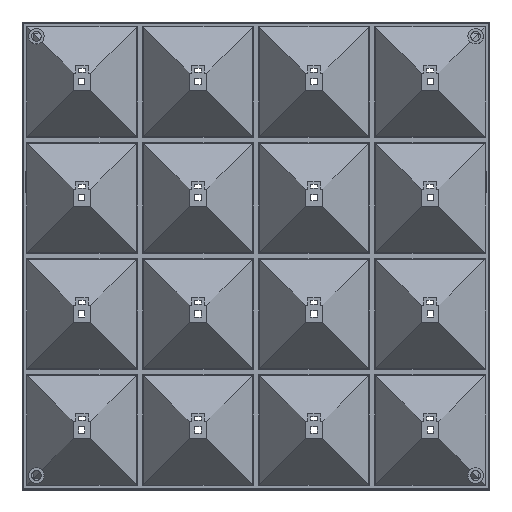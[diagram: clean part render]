
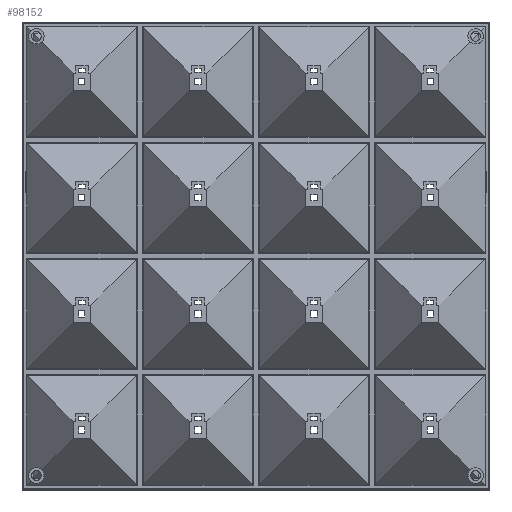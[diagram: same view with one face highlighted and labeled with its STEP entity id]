
A CAD part, top view. The second image highlights one B-rep face of the part: STEP entity #98152.
In plain terms, the highlighted planar face has unit normal (0, 0, 1).
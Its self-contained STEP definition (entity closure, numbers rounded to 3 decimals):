
#42 = VERTEX_POINT('',#43);
#43 = CARTESIAN_POINT('',(-100.8,-188.95,-24.5));
#50 = PLANE('',#51);
#51 = AXIS2_PLACEMENT_3D('',#52,#53,#54);
#52 = CARTESIAN_POINT('',(-100.8,-188.95,-25.9));
#53 = DIRECTION('',(1.,0.,0.));
#54 = DIRECTION('',(0.,0.,1.));
#62 = PLANE('',#63);
#63 = AXIS2_PLACEMENT_3D('',#64,#65,#66);
#64 = CARTESIAN_POINT('',(-100.8,-188.95,-25.9));
#65 = DIRECTION('',(0.,1.,0.));
#66 = DIRECTION('',(0.,-0.,1.));
#103 = VERTEX_POINT('',#104);
#104 = CARTESIAN_POINT('',(-100.8,12.65,-24.5));
#118 = PLANE('',#119);
#119 = AXIS2_PLACEMENT_3D('',#120,#121,#122);
#120 = CARTESIAN_POINT('',(-100.8,12.65,-25.9));
#121 = DIRECTION('',(0.,1.,0.));
#122 = DIRECTION('',(0.,-0.,1.));
#130 = EDGE_CURVE('',#42,#103,#131,.T.);
#131 = SURFACE_CURVE('',#132,(#136,#143),.PCURVE_S1.);
#132 = LINE('',#133,#134);
#133 = CARTESIAN_POINT('',(-100.8,-188.95,-24.5));
#134 = VECTOR('',#135,1.);
#135 = DIRECTION('',(0.,1.,0.));
#136 = PCURVE('',#50,#137);
#137 = DEFINITIONAL_REPRESENTATION('',(#138),#142);
#138 = LINE('',#139,#140);
#139 = CARTESIAN_POINT('',(1.4,0.));
#140 = VECTOR('',#141,1.);
#141 = DIRECTION('',(0.,-1.));
#142 = ( GEOMETRIC_REPRESENTATION_CONTEXT(2) 
PARAMETRIC_REPRESENTATION_CONTEXT() REPRESENTATION_CONTEXT('2D SPACE',''
  ) );
#143 = PCURVE('',#144,#149);
#144 = PLANE('',#145);
#145 = AXIS2_PLACEMENT_3D('',#146,#147,#148);
#146 = CARTESIAN_POINT('',(-100.8,-188.95,-24.5));
#147 = DIRECTION('',(0.,0.,1.));
#148 = DIRECTION('',(1.,0.,-0.));
#149 = DEFINITIONAL_REPRESENTATION('',(#150),#154);
#150 = LINE('',#151,#152);
#151 = CARTESIAN_POINT('',(0.,0.));
#152 = VECTOR('',#153,1.);
#153 = DIRECTION('',(0.,1.));
#154 = ( GEOMETRIC_REPRESENTATION_CONTEXT(2) 
PARAMETRIC_REPRESENTATION_CONTEXT() REPRESENTATION_CONTEXT('2D SPACE',''
  ) );
#199 = PLANE('',#200);
#200 = AXIS2_PLACEMENT_3D('',#201,#202,#203);
#201 = CARTESIAN_POINT('',(100.8,-188.95,-25.9));
#202 = DIRECTION('',(1.,0.,0.));
#203 = DIRECTION('',(0.,0.,1.));
#36729 = PLANE('',#36730);
#36730 = AXIS2_PLACEMENT_3D('',#36731,#36732,#36733);
#36731 = CARTESIAN_POINT('',(-100.,-188.15,-24.5));
#36732 = DIRECTION('',(1.,0.,0.));
#36733 = DIRECTION('',(0.,0.,1.));
#36757 = PLANE('',#36758);
#36758 = AXIS2_PLACEMENT_3D('',#36759,#36760,#36761);
#36759 = CARTESIAN_POINT('',(-100.,-188.15,-24.5));
#36760 = DIRECTION('',(0.,1.,0.));
#36761 = DIRECTION('',(0.,-0.,1.));
#36785 = PLANE('',#36786);
#36786 = AXIS2_PLACEMENT_3D('',#36787,#36788,#36789);
#36787 = CARTESIAN_POINT('',(100.,-188.15,-24.5));
#36788 = DIRECTION('',(1.,0.,0.));
#36789 = DIRECTION('',(0.,0.,1.));
#36920 = PLANE('',#36921);
#36921 = AXIS2_PLACEMENT_3D('',#36922,#36923,#36924);
#36922 = CARTESIAN_POINT('',(-100.,11.85,-24.5));
#36923 = DIRECTION('',(0.,1.,0.));
#36924 = DIRECTION('',(0.,-0.,1.));
#77864 = EDGE_CURVE('',#77865,#77867,#77869,.T.);
#77865 = VERTEX_POINT('',#77866);
#77866 = CARTESIAN_POINT('',(-100.,11.85,-24.5));
#77867 = VERTEX_POINT('',#77868);
#77868 = CARTESIAN_POINT('',(100.,11.85,-24.5));
#77869 = SURFACE_CURVE('',#77870,(#77874,#77881),.PCURVE_S1.);
#77870 = LINE('',#77871,#77872);
#77871 = CARTESIAN_POINT('',(-100.,11.85,-24.5));
#77872 = VECTOR('',#77873,1.);
#77873 = DIRECTION('',(1.,0.,0.));
#77874 = PCURVE('',#36920,#77875);
#77875 = DEFINITIONAL_REPRESENTATION('',(#77876),#77880);
#77876 = LINE('',#77877,#77878);
#77877 = CARTESIAN_POINT('',(0.,0.));
#77878 = VECTOR('',#77879,1.);
#77879 = DIRECTION('',(0.,1.));
#77880 = ( GEOMETRIC_REPRESENTATION_CONTEXT(2) 
PARAMETRIC_REPRESENTATION_CONTEXT() REPRESENTATION_CONTEXT('2D SPACE',''
  ) );
#77881 = PCURVE('',#144,#77882);
#77882 = DEFINITIONAL_REPRESENTATION('',(#77883),#77887);
#77883 = LINE('',#77884,#77885);
#77884 = CARTESIAN_POINT('',(0.8,200.8));
#77885 = VECTOR('',#77886,1.);
#77886 = DIRECTION('',(1.,0.));
#77887 = ( GEOMETRIC_REPRESENTATION_CONTEXT(2) 
PARAMETRIC_REPRESENTATION_CONTEXT() REPRESENTATION_CONTEXT('2D SPACE',''
  ) );
#78311 = VERTEX_POINT('',#78312);
#78312 = CARTESIAN_POINT('',(100.,-188.15,-24.5));
#78333 = EDGE_CURVE('',#77867,#78311,#78334,.T.);
#78334 = SURFACE_CURVE('',#78335,(#78339,#78346),.PCURVE_S1.);
#78335 = LINE('',#78336,#78337);
#78336 = CARTESIAN_POINT('',(100.,11.85,-24.5));
#78337 = VECTOR('',#78338,1.);
#78338 = DIRECTION('',(0.,-1.,0.));
#78339 = PCURVE('',#36785,#78340);
#78340 = DEFINITIONAL_REPRESENTATION('',(#78341),#78345);
#78341 = LINE('',#78342,#78343);
#78342 = CARTESIAN_POINT('',(0.,-200.));
#78343 = VECTOR('',#78344,1.);
#78344 = DIRECTION('',(0.,1.));
#78345 = ( GEOMETRIC_REPRESENTATION_CONTEXT(2) 
PARAMETRIC_REPRESENTATION_CONTEXT() REPRESENTATION_CONTEXT('2D SPACE',''
  ) );
#78346 = PCURVE('',#144,#78347);
#78347 = DEFINITIONAL_REPRESENTATION('',(#78348),#78352);
#78348 = LINE('',#78349,#78350);
#78349 = CARTESIAN_POINT('',(200.8,200.8));
#78350 = VECTOR('',#78351,1.);
#78351 = DIRECTION('',(0.,-1.));
#78352 = ( GEOMETRIC_REPRESENTATION_CONTEXT(2) 
PARAMETRIC_REPRESENTATION_CONTEXT() REPRESENTATION_CONTEXT('2D SPACE',''
  ) );
#78390 = EDGE_CURVE('',#78311,#78391,#78393,.T.);
#78391 = VERTEX_POINT('',#78392);
#78392 = CARTESIAN_POINT('',(-100.,-188.15,-24.5));
#78393 = SURFACE_CURVE('',#78394,(#78398,#78405),.PCURVE_S1.);
#78394 = LINE('',#78395,#78396);
#78395 = CARTESIAN_POINT('',(100.,-188.15,-24.5));
#78396 = VECTOR('',#78397,1.);
#78397 = DIRECTION('',(-1.,0.,0.));
#78398 = PCURVE('',#36757,#78399);
#78399 = DEFINITIONAL_REPRESENTATION('',(#78400),#78404);
#78400 = LINE('',#78401,#78402);
#78401 = CARTESIAN_POINT('',(0.,200.));
#78402 = VECTOR('',#78403,1.);
#78403 = DIRECTION('',(0.,-1.));
#78404 = ( GEOMETRIC_REPRESENTATION_CONTEXT(2) 
PARAMETRIC_REPRESENTATION_CONTEXT() REPRESENTATION_CONTEXT('2D SPACE',''
  ) );
#78405 = PCURVE('',#144,#78406);
#78406 = DEFINITIONAL_REPRESENTATION('',(#78407),#78411);
#78407 = LINE('',#78408,#78409);
#78408 = CARTESIAN_POINT('',(200.8,0.8));
#78409 = VECTOR('',#78410,1.);
#78410 = DIRECTION('',(-1.,0.));
#78411 = ( GEOMETRIC_REPRESENTATION_CONTEXT(2) 
PARAMETRIC_REPRESENTATION_CONTEXT() REPRESENTATION_CONTEXT('2D SPACE',''
  ) );
#78440 = EDGE_CURVE('',#78391,#77865,#78441,.T.);
#78441 = SURFACE_CURVE('',#78442,(#78446,#78453),.PCURVE_S1.);
#78442 = LINE('',#78443,#78444);
#78443 = CARTESIAN_POINT('',(-100.,-188.15,-24.5));
#78444 = VECTOR('',#78445,1.);
#78445 = DIRECTION('',(0.,1.,0.));
#78446 = PCURVE('',#36729,#78447);
#78447 = DEFINITIONAL_REPRESENTATION('',(#78448),#78452);
#78448 = LINE('',#78449,#78450);
#78449 = CARTESIAN_POINT('',(0.,0.));
#78450 = VECTOR('',#78451,1.);
#78451 = DIRECTION('',(0.,-1.));
#78452 = ( GEOMETRIC_REPRESENTATION_CONTEXT(2) 
PARAMETRIC_REPRESENTATION_CONTEXT() REPRESENTATION_CONTEXT('2D SPACE',''
  ) );
#78453 = PCURVE('',#144,#78454);
#78454 = DEFINITIONAL_REPRESENTATION('',(#78455),#78459);
#78455 = LINE('',#78456,#78457);
#78456 = CARTESIAN_POINT('',(0.8,0.8));
#78457 = VECTOR('',#78458,1.);
#78458 = DIRECTION('',(0.,1.));
#78459 = ( GEOMETRIC_REPRESENTATION_CONTEXT(2) 
PARAMETRIC_REPRESENTATION_CONTEXT() REPRESENTATION_CONTEXT('2D SPACE',''
  ) );
#98059 = VERTEX_POINT('',#98060);
#98060 = CARTESIAN_POINT('',(100.8,-188.95,-24.5));
#98083 = VERTEX_POINT('',#98084);
#98084 = CARTESIAN_POINT('',(100.8,12.65,-24.5));
#98105 = EDGE_CURVE('',#98059,#98083,#98106,.T.);
#98106 = SURFACE_CURVE('',#98107,(#98111,#98118),.PCURVE_S1.);
#98107 = LINE('',#98108,#98109);
#98108 = CARTESIAN_POINT('',(100.8,-188.95,-24.5));
#98109 = VECTOR('',#98110,1.);
#98110 = DIRECTION('',(0.,1.,0.));
#98111 = PCURVE('',#199,#98112);
#98112 = DEFINITIONAL_REPRESENTATION('',(#98113),#98117);
#98113 = LINE('',#98114,#98115);
#98114 = CARTESIAN_POINT('',(1.4,0.));
#98115 = VECTOR('',#98116,1.);
#98116 = DIRECTION('',(0.,-1.));
#98117 = ( GEOMETRIC_REPRESENTATION_CONTEXT(2) 
PARAMETRIC_REPRESENTATION_CONTEXT() REPRESENTATION_CONTEXT('2D SPACE',''
  ) );
#98118 = PCURVE('',#144,#98119);
#98119 = DEFINITIONAL_REPRESENTATION('',(#98120),#98124);
#98120 = LINE('',#98121,#98122);
#98121 = CARTESIAN_POINT('',(201.6,0.));
#98122 = VECTOR('',#98123,1.);
#98123 = DIRECTION('',(0.,1.));
#98124 = ( GEOMETRIC_REPRESENTATION_CONTEXT(2) 
PARAMETRIC_REPRESENTATION_CONTEXT() REPRESENTATION_CONTEXT('2D SPACE',''
  ) );
#98131 = EDGE_CURVE('',#103,#98083,#98132,.T.);
#98132 = SURFACE_CURVE('',#98133,(#98137,#98144),.PCURVE_S1.);
#98133 = LINE('',#98134,#98135);
#98134 = CARTESIAN_POINT('',(-100.8,12.65,-24.5));
#98135 = VECTOR('',#98136,1.);
#98136 = DIRECTION('',(1.,0.,0.));
#98137 = PCURVE('',#118,#98138);
#98138 = DEFINITIONAL_REPRESENTATION('',(#98139),#98143);
#98139 = LINE('',#98140,#98141);
#98140 = CARTESIAN_POINT('',(1.4,0.));
#98141 = VECTOR('',#98142,1.);
#98142 = DIRECTION('',(0.,1.));
#98143 = ( GEOMETRIC_REPRESENTATION_CONTEXT(2) 
PARAMETRIC_REPRESENTATION_CONTEXT() REPRESENTATION_CONTEXT('2D SPACE',''
  ) );
#98144 = PCURVE('',#144,#98145);
#98145 = DEFINITIONAL_REPRESENTATION('',(#98146),#98150);
#98146 = LINE('',#98147,#98148);
#98147 = CARTESIAN_POINT('',(0.,201.6));
#98148 = VECTOR('',#98149,1.);
#98149 = DIRECTION('',(1.,0.));
#98150 = ( GEOMETRIC_REPRESENTATION_CONTEXT(2) 
PARAMETRIC_REPRESENTATION_CONTEXT() REPRESENTATION_CONTEXT('2D SPACE',''
  ) );
#98152 = ADVANCED_FACE('',(#98153,#98179),#144,.T.);
#98153 = FACE_BOUND('',#98154,.T.);
#98154 = EDGE_LOOP('',(#98155,#98156,#98177,#98178));
#98155 = ORIENTED_EDGE('',*,*,#130,.F.);
#98156 = ORIENTED_EDGE('',*,*,#98157,.T.);
#98157 = EDGE_CURVE('',#42,#98059,#98158,.T.);
#98158 = SURFACE_CURVE('',#98159,(#98163,#98170),.PCURVE_S1.);
#98159 = LINE('',#98160,#98161);
#98160 = CARTESIAN_POINT('',(-100.8,-188.95,-24.5));
#98161 = VECTOR('',#98162,1.);
#98162 = DIRECTION('',(1.,0.,0.));
#98163 = PCURVE('',#144,#98164);
#98164 = DEFINITIONAL_REPRESENTATION('',(#98165),#98169);
#98165 = LINE('',#98166,#98167);
#98166 = CARTESIAN_POINT('',(0.,0.));
#98167 = VECTOR('',#98168,1.);
#98168 = DIRECTION('',(1.,0.));
#98169 = ( GEOMETRIC_REPRESENTATION_CONTEXT(2) 
PARAMETRIC_REPRESENTATION_CONTEXT() REPRESENTATION_CONTEXT('2D SPACE',''
  ) );
#98170 = PCURVE('',#62,#98171);
#98171 = DEFINITIONAL_REPRESENTATION('',(#98172),#98176);
#98172 = LINE('',#98173,#98174);
#98173 = CARTESIAN_POINT('',(1.4,0.));
#98174 = VECTOR('',#98175,1.);
#98175 = DIRECTION('',(0.,1.));
#98176 = ( GEOMETRIC_REPRESENTATION_CONTEXT(2) 
PARAMETRIC_REPRESENTATION_CONTEXT() REPRESENTATION_CONTEXT('2D SPACE',''
  ) );
#98177 = ORIENTED_EDGE('',*,*,#98105,.T.);
#98178 = ORIENTED_EDGE('',*,*,#98131,.F.);
#98179 = FACE_BOUND('',#98180,.T.);
#98180 = EDGE_LOOP('',(#98181,#98182,#98183,#98184));
#98181 = ORIENTED_EDGE('',*,*,#78390,.T.);
#98182 = ORIENTED_EDGE('',*,*,#78440,.T.);
#98183 = ORIENTED_EDGE('',*,*,#77864,.T.);
#98184 = ORIENTED_EDGE('',*,*,#78333,.T.);
